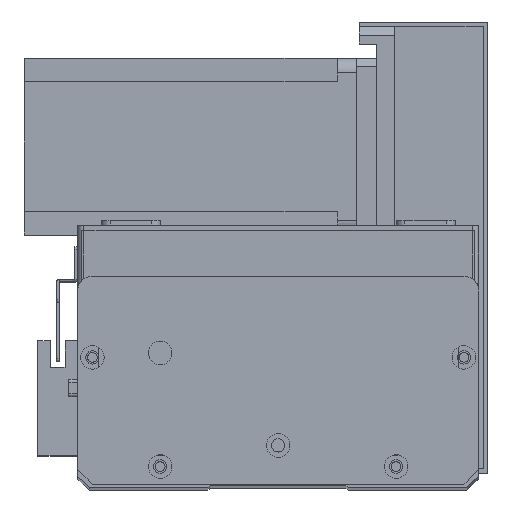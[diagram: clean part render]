
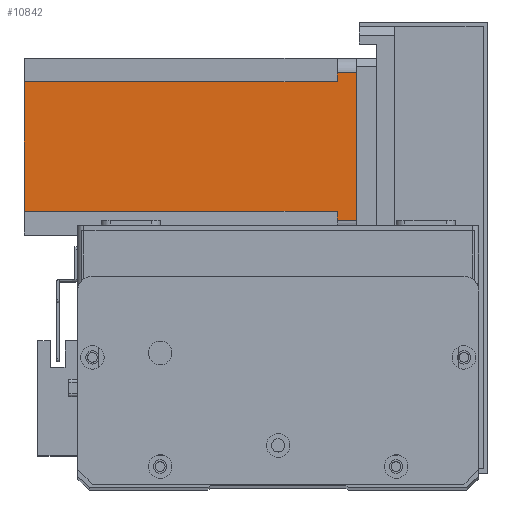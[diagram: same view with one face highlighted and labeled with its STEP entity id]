
A CAD part, top view. The second image highlights one B-rep face of the part: STEP entity #10842.
In plain terms, the highlighted planar face has unit normal (0, 0, 1) as drawn and (0, 1, 0) by its records, which use the part's own axes.
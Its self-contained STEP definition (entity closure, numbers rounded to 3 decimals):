
#53 = CARTESIAN_POINT ( 'NONE',  ( 5., 60., -112.5 ) ) ;
#238 = CARTESIAN_POINT ( 'NONE',  ( 52., 60., -112.5 ) ) ;
#445 = VECTOR ( 'NONE', #25786, 1000. ) ;
#457 = LINE ( 'NONE', #24994, #23457 ) ;
#1287 = EDGE_CURVE ( 'NONE', #17477, #6475, #7697, .T. ) ;
#1524 = CARTESIAN_POINT ( 'NONE',  ( 5., 60., 0. ) ) ;
#2003 = ORIENTED_EDGE ( 'NONE', *, *, #4286, .T. ) ;
#2524 = DIRECTION ( 'NONE',  ( 0., 0., 1. ) ) ;
#2545 = LINE ( 'NONE', #27735, #9377 ) ;
#3250 = LINE ( 'NONE', #24227, #21035 ) ;
#3633 = CARTESIAN_POINT ( 'NONE',  ( 52., 60., -112.5 ) ) ;
#3997 = CARTESIAN_POINT ( 'NONE',  ( 8., 60., -112.5 ) ) ;
#4270 = ORIENTED_EDGE ( 'NONE', *, *, #14107, .F. ) ;
#4286 = EDGE_CURVE ( 'NONE', #21200, #5232, #15894, .T. ) ;
#4815 = LINE ( 'NONE', #17285, #27481 ) ;
#5178 = ORIENTED_EDGE ( 'NONE', *, *, #1287, .T. ) ;
#5232 = VERTEX_POINT ( 'NONE', #3997 ) ;
#6475 = VERTEX_POINT ( 'NONE', #1524 ) ;
#6618 = LINE ( 'NONE', #238, #23495 ) ;
#7611 = CARTESIAN_POINT ( 'NONE',  ( 52., 60., -6.5 ) ) ;
#7697 = LINE ( 'NONE', #53, #12977 ) ;
#7757 = CARTESIAN_POINT ( 'NONE',  ( 55., 60., 0. ) ) ;
#9206 = EDGE_CURVE ( 'NONE', #12100, #23304, #457, .T. ) ;
#9377 = VECTOR ( 'NONE', #12616, 1000. ) ;
#9448 = DIRECTION ( 'NONE',  ( -1., 0., 0. ) ) ;
#9513 = ORIENTED_EDGE ( 'NONE', *, *, #9206, .T. ) ;
#9671 = ORIENTED_EDGE ( 'NONE', *, *, #27230, .F. ) ;
#10697 = DIRECTION ( 'NONE',  ( -1., 0., 0. ) ) ;
#10842 = ADVANCED_FACE ( 'NONE', ( #16616 ), #26871, .T. ) ;
#10897 = CARTESIAN_POINT ( 'NONE',  ( 55., 60., -6.5 ) ) ;
#12100 = VERTEX_POINT ( 'NONE', #7757 ) ;
#12153 = CARTESIAN_POINT ( 'NONE',  ( 5., 60., -6.5 ) ) ;
#12616 = DIRECTION ( 'NONE',  ( -1., 0., 0. ) ) ;
#12977 = VECTOR ( 'NONE', #25642, 1000. ) ;
#13839 = CARTESIAN_POINT ( 'NONE',  ( 0., 60., -112.5 ) ) ;
#14107 = EDGE_CURVE ( 'NONE', #26288, #23304, #3250, .T. ) ;
#14887 = ORIENTED_EDGE ( 'NONE', *, *, #21252, .T. ) ;
#15894 = LINE ( 'NONE', #13839, #16606 ) ;
#16606 = VECTOR ( 'NONE', #9448, 1000. ) ;
#16616 = FACE_OUTER_BOUND ( 'NONE', #17726, .T. ) ;
#17285 = CARTESIAN_POINT ( 'NONE',  ( 8., 60., -6.5 ) ) ;
#17477 = VERTEX_POINT ( 'NONE', #12153 ) ;
#17583 = VERTEX_POINT ( 'NONE', #19067 ) ;
#17726 = EDGE_LOOP ( 'NONE', ( #23764, #9513, #4270, #9671, #2003, #17882, #14887, #5178 ) ) ;
#17882 = ORIENTED_EDGE ( 'NONE', *, *, #22253, .F. ) ;
#19067 = CARTESIAN_POINT ( 'NONE',  ( 8., 60., -6.5 ) ) ;
#21035 = VECTOR ( 'NONE', #24121, 1000. ) ;
#21200 = VERTEX_POINT ( 'NONE', #3633 ) ;
#21252 = EDGE_CURVE ( 'NONE', #17583, #17477, #4815, .T. ) ;
#22253 = EDGE_CURVE ( 'NONE', #17583, #5232, #24119, .T. ) ;
#22605 = EDGE_CURVE ( 'NONE', #12100, #6475, #2545, .T. ) ;
#22733 = AXIS2_PLACEMENT_3D ( 'NONE', #26842, #26743, #26726 ) ;
#23304 = VERTEX_POINT ( 'NONE', #10897 ) ;
#23457 = VECTOR ( 'NONE', #24545, 1000. ) ;
#23495 = VECTOR ( 'NONE', #2524, 1000. ) ;
#23764 = ORIENTED_EDGE ( 'NONE', *, *, #22605, .F. ) ;
#24119 = LINE ( 'NONE', #27900, #445 ) ;
#24121 = DIRECTION ( 'NONE',  ( 1., 0., 0. ) ) ;
#24227 = CARTESIAN_POINT ( 'NONE',  ( 52., 60., -6.5 ) ) ;
#24545 = DIRECTION ( 'NONE',  ( 0., 0., -1. ) ) ;
#24994 = CARTESIAN_POINT ( 'NONE',  ( 55., 60., -112.5 ) ) ;
#25642 = DIRECTION ( 'NONE',  ( 0., 0., 1. ) ) ;
#25786 = DIRECTION ( 'NONE',  ( 0., 0., -1. ) ) ;
#26288 = VERTEX_POINT ( 'NONE', #7611 ) ;
#26726 = DIRECTION ( 'NONE',  ( 0., 0., 1. ) ) ;
#26743 = DIRECTION ( 'NONE',  ( 0., 1., 0. ) ) ;
#26842 = CARTESIAN_POINT ( 'NONE',  ( 0., 60., -112.5 ) ) ;
#26871 = PLANE ( 'NONE',  #22733 ) ;
#27230 = EDGE_CURVE ( 'NONE', #21200, #26288, #6618, .T. ) ;
#27481 = VECTOR ( 'NONE', #10697, 1000. ) ;
#27735 = CARTESIAN_POINT ( 'NONE',  ( 0., 60., 0. ) ) ;
#27900 = CARTESIAN_POINT ( 'NONE',  ( 8., 60., -112.5 ) ) ;
